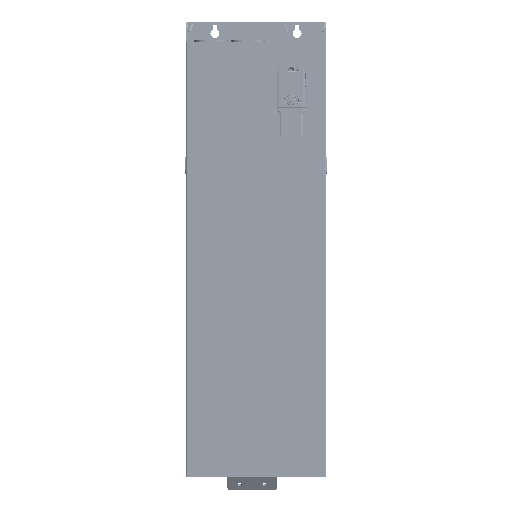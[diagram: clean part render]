
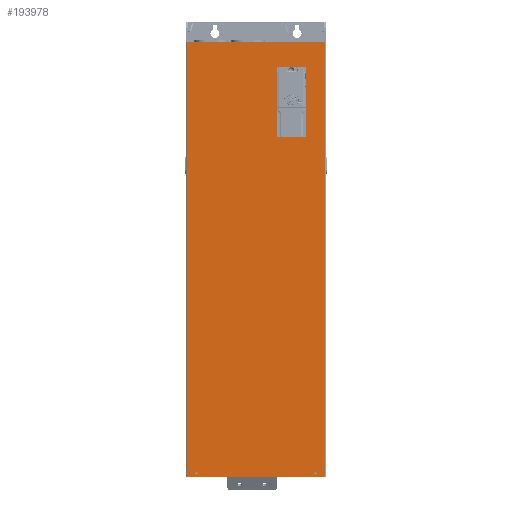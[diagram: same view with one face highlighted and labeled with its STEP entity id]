
A CAD part, front view. The second image highlights one B-rep face of the part: STEP entity #193978.
In plain terms, the highlighted planar face has unit normal (0, -1, 0) as drawn and (0, 1, 0) by its records, which use the part's own axes.
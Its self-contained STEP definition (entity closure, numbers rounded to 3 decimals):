
#193263=DIRECTION('',(-1.,0.,0.));
#193264=VECTOR('',#193263,336.6);
#193265=CARTESIAN_POINT('',(168.3,0.,531.));
#193266=LINE('',#193265,#193264);
#193267=DIRECTION('',(0.,0.,-1.));
#193268=VECTOR('',#193267,168.5);
#193269=CARTESIAN_POINT('',(121.,0.,-300.5));
#193270=LINE('',#193269,#193268);
#193271=CARTESIAN_POINT('',(119.5,0.,-469.));
#193272=DIRECTION('',(0.,1.,0.));
#193273=DIRECTION('',(1.,0.,0.));
#193274=AXIS2_PLACEMENT_3D('',#193271,#193272,#193273);
#193276=DIRECTION('',(-1.,0.,0.));
#193277=VECTOR('',#193276,67.);
#193278=CARTESIAN_POINT('',(119.5,0.,-470.5));
#193279=LINE('',#193278,#193277);
#193280=CARTESIAN_POINT('',(52.5,0.,-469.));
#193281=DIRECTION('',(0.,1.,0.));
#193282=DIRECTION('',(0.,0.,-1.));
#193283=AXIS2_PLACEMENT_3D('',#193280,#193281,#193282);
#193285=DIRECTION('',(0.,0.,1.));
#193286=VECTOR('',#193285,168.5);
#193287=CARTESIAN_POINT('',(51.,0.,-469.));
#193288=LINE('',#193287,#193286);
#193289=CARTESIAN_POINT('',(52.5,0.,-300.5));
#193290=DIRECTION('',(0.,1.,0.));
#193291=DIRECTION('',(-1.,0.,0.));
#193292=AXIS2_PLACEMENT_3D('',#193289,#193290,#193291);
#193294=DIRECTION('',(1.,0.,0.));
#193295=VECTOR('',#193294,67.);
#193296=CARTESIAN_POINT('',(52.5,0.,-299.));
#193297=LINE('',#193296,#193295);
#193298=CARTESIAN_POINT('',(119.5,0.,-300.5));
#193299=DIRECTION('',(0.,1.,0.));
#193300=DIRECTION('',(0.,0.,1.));
#193301=AXIS2_PLACEMENT_3D('',#193298,#193299,#193300);
#193303=CARTESIAN_POINT('',(-145.,0.,521.));
#193304=DIRECTION('',(0.,1.,0.));
#193305=DIRECTION('',(-1.,0.,0.));
#193306=AXIS2_PLACEMENT_3D('',#193303,#193304,#193305);
#193308=CARTESIAN_POINT('',(-145.,0.,521.));
#193309=DIRECTION('',(0.,1.,0.));
#193310=DIRECTION('',(1.,0.,0.));
#193311=AXIS2_PLACEMENT_3D('',#193308,#193309,#193310);
#193313=CARTESIAN_POINT('',(145.,0.,521.));
#193314=DIRECTION('',(0.,1.,0.));
#193315=DIRECTION('',(-1.,0.,0.));
#193316=AXIS2_PLACEMENT_3D('',#193313,#193314,#193315);
#193318=CARTESIAN_POINT('',(145.,0.,521.));
#193319=DIRECTION('',(0.,1.,0.));
#193320=DIRECTION('',(1.,0.,0.));
#193321=AXIS2_PLACEMENT_3D('',#193318,#193319,#193320);
#193331=DIRECTION('',(0.,0.,1.));
#193332=VECTOR('',#193331,1060.3);
#193333=CARTESIAN_POINT('',(-168.3,0.,-529.3));
#193334=LINE('',#193333,#193332);
#193377=DIRECTION('',(0.,0.,-1.));
#193378=VECTOR('',#193377,1060.3);
#193379=CARTESIAN_POINT('',(168.3,0.,531.));
#193380=LINE('',#193379,#193378);
#193460=DIRECTION('',(-1.,0.,0.));
#193461=VECTOR('',#193460,336.6);
#193462=CARTESIAN_POINT('',(168.3,0.,-529.3));
#193463=LINE('',#193462,#193461);
#193789=CARTESIAN_POINT('',(-168.3,0.,-529.3));
#193790=CARTESIAN_POINT('',(-168.3,0.,531.));
#193791=VERTEX_POINT('',#193789);
#193792=VERTEX_POINT('',#193790);
#193793=CARTESIAN_POINT('',(168.3,0.,-529.3));
#193794=VERTEX_POINT('',#193793);
#193795=CARTESIAN_POINT('',(168.3,0.,531.));
#193796=VERTEX_POINT('',#193795);
#193797=CARTESIAN_POINT('',(121.,0.,-300.5));
#193798=CARTESIAN_POINT('',(121.,0.,-469.));
#193799=VERTEX_POINT('',#193797);
#193800=VERTEX_POINT('',#193798);
#193801=CARTESIAN_POINT('',(119.5,0.,-470.5));
#193802=VERTEX_POINT('',#193801);
#193803=CARTESIAN_POINT('',(52.5,0.,-470.5));
#193804=VERTEX_POINT('',#193803);
#193805=CARTESIAN_POINT('',(51.,0.,-469.));
#193806=VERTEX_POINT('',#193805);
#193807=CARTESIAN_POINT('',(51.,0.,-300.5));
#193808=VERTEX_POINT('',#193807);
#193809=CARTESIAN_POINT('',(52.5,0.,-299.));
#193810=VERTEX_POINT('',#193809);
#193811=CARTESIAN_POINT('',(119.5,0.,-299.));
#193812=VERTEX_POINT('',#193811);
#193813=CARTESIAN_POINT('',(-147.5,0.,521.));
#193814=CARTESIAN_POINT('',(-142.5,0.,521.));
#193815=VERTEX_POINT('',#193813);
#193816=VERTEX_POINT('',#193814);
#193817=CARTESIAN_POINT('',(142.5,0.,521.));
#193818=CARTESIAN_POINT('',(147.5,0.,521.));
#193819=VERTEX_POINT('',#193817);
#193820=VERTEX_POINT('',#193818);
#193933=CARTESIAN_POINT('',(0.,0.,0.));
#193934=DIRECTION('',(0.,1.,0.));
#193935=DIRECTION('',(1.,0.,0.));
#193936=AXIS2_PLACEMENT_3D('',#193933,#193934,#193935);
#193937=PLANE('',#193936);
#193939=ORIENTED_EDGE('',*,*,#193938,.F.);
#193941=ORIENTED_EDGE('',*,*,#193940,.F.);
#193943=ORIENTED_EDGE('',*,*,#193942,.F.);
#193945=ORIENTED_EDGE('',*,*,#193944,.T.);
#193946=EDGE_LOOP('',(#193939,#193941,#193943,#193945));
#193947=FACE_OUTER_BOUND('',#193946,.F.);
#193949=ORIENTED_EDGE('',*,*,#193948,.T.);
#193951=ORIENTED_EDGE('',*,*,#193950,.T.);
#193953=ORIENTED_EDGE('',*,*,#193952,.T.);
#193955=ORIENTED_EDGE('',*,*,#193954,.T.);
#193957=ORIENTED_EDGE('',*,*,#193956,.T.);
#193959=ORIENTED_EDGE('',*,*,#193958,.T.);
#193961=ORIENTED_EDGE('',*,*,#193960,.T.);
#193963=ORIENTED_EDGE('',*,*,#193962,.T.);
#193964=EDGE_LOOP('',(#193949,#193951,#193953,#193955,#193957,#193959,#193961,
#193963));
#193965=FACE_BOUND('',#193964,.F.);
#193967=ORIENTED_EDGE('',*,*,#193966,.T.);
#193969=ORIENTED_EDGE('',*,*,#193968,.T.);
#193970=EDGE_LOOP('',(#193967,#193969));
#193971=FACE_BOUND('',#193970,.F.);
#193973=ORIENTED_EDGE('',*,*,#193972,.T.);
#193975=ORIENTED_EDGE('',*,*,#193974,.T.);
#193976=EDGE_LOOP('',(#193973,#193975));
#193977=FACE_BOUND('',#193976,.F.);
#193275=CIRCLE('',#193274,1.5);
#193284=CIRCLE('',#193283,1.5);
#193293=CIRCLE('',#193292,1.5);
#193302=CIRCLE('',#193301,1.5);
#193307=CIRCLE('',#193306,2.5);
#193312=CIRCLE('',#193311,2.5);
#193317=CIRCLE('',#193316,2.5);
#193322=CIRCLE('',#193321,2.5);
#193938=EDGE_CURVE('',#193791,#193792,#193334,.T.);
#193940=EDGE_CURVE('',#193794,#193791,#193463,.T.);
#193942=EDGE_CURVE('',#193796,#193794,#193380,.T.);
#193944=EDGE_CURVE('',#193796,#193792,#193266,.T.);
#193948=EDGE_CURVE('',#193799,#193800,#193270,.T.);
#193950=EDGE_CURVE('',#193800,#193802,#193275,.T.);
#193952=EDGE_CURVE('',#193802,#193804,#193279,.T.);
#193954=EDGE_CURVE('',#193804,#193806,#193284,.T.);
#193956=EDGE_CURVE('',#193806,#193808,#193288,.T.);
#193958=EDGE_CURVE('',#193808,#193810,#193293,.T.);
#193960=EDGE_CURVE('',#193810,#193812,#193297,.T.);
#193962=EDGE_CURVE('',#193812,#193799,#193302,.T.);
#193966=EDGE_CURVE('',#193815,#193816,#193307,.T.);
#193968=EDGE_CURVE('',#193816,#193815,#193312,.T.);
#193972=EDGE_CURVE('',#193819,#193820,#193317,.T.);
#193974=EDGE_CURVE('',#193820,#193819,#193322,.T.);
#193978=ADVANCED_FACE('',(#193947,#193965,#193971,#193977),#193937,.T.);
